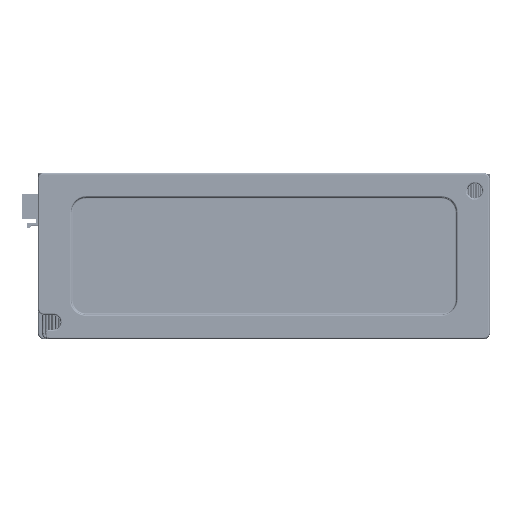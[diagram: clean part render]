
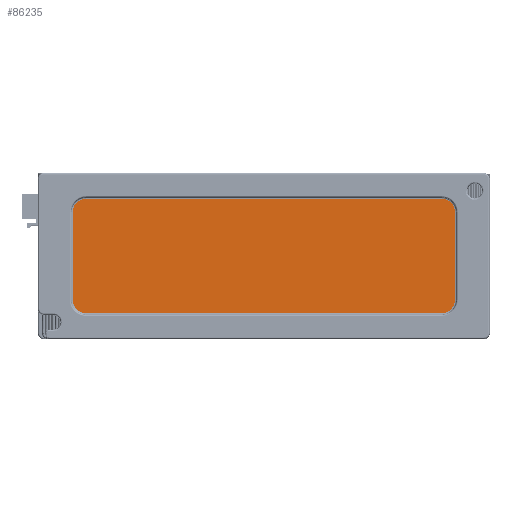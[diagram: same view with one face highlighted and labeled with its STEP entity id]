
A CAD part, top view. The second image highlights one B-rep face of the part: STEP entity #86235.
In plain terms, the highlighted planar face has unit normal (0, 0, 1).
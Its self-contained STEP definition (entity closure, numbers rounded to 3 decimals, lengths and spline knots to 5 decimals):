
#63518=DIRECTION('',(1.,0.,0.));
#63519=VECTOR('',#63518,0.118);
#63520=CARTESIAN_POINT('',(-0.07045,0.02282,
0.21924));
#63521=LINE('',#63520,#63519);
#63541=DIRECTION('',(0.,-1.,0.));
#63542=VECTOR('',#63541,0.029);
#63543=CARTESIAN_POINT('',(0.05205,0.01832,
0.21925));
#63544=LINE('',#63543,#63542);
#63564=DIRECTION('',(-1.,0.,0.));
#63565=VECTOR('',#63564,0.118);
#63566=CARTESIAN_POINT('',(0.04755,-0.01518,
0.21925));
#63567=LINE('',#63566,#63565);
#63587=DIRECTION('',(0.,1.,0.));
#63588=VECTOR('',#63587,0.029);
#63589=CARTESIAN_POINT('',(-0.07495,-0.01068,
0.21924));
#63590=LINE('',#63589,#63588);
#63610=CARTESIAN_POINT('',(0.04755,-0.01068,
0.21925));
#63611=DIRECTION('',(0.,0.,1.));
#63612=DIRECTION('',(0.,-1.,0.));
#63613=AXIS2_PLACEMENT_3D('',#63610,#63611,#63612);
#63615=CARTESIAN_POINT('',(-0.07045,-0.01068,
0.21924));
#63616=DIRECTION('',(0.,0.,1.));
#63617=DIRECTION('',(-1.,0.,0.));
#63618=AXIS2_PLACEMENT_3D('',#63615,#63616,#63617);
#63620=CARTESIAN_POINT('',(-0.07045,0.01832,
0.21924));
#63621=DIRECTION('',(0.,0.,1.));
#63622=DIRECTION('',(0.,1.,0.));
#63623=AXIS2_PLACEMENT_3D('',#63620,#63621,#63622);
#63625=CARTESIAN_POINT('',(0.04755,0.01832,
0.21925));
#63626=DIRECTION('',(0.,0.,1.));
#63627=DIRECTION('',(1.,0.,0.));
#63628=AXIS2_PLACEMENT_3D('',#63625,#63626,#63627);
#73911=CARTESIAN_POINT('',(0.04755,-0.01518,
0.21925));
#73912=CARTESIAN_POINT('',(0.05205,-0.01068,
0.21925));
#73913=VERTEX_POINT('',#73911);
#73914=VERTEX_POINT('',#73912);
#73915=CARTESIAN_POINT('',(-0.07045,-0.01518,
0.21924));
#73916=VERTEX_POINT('',#73915);
#73917=CARTESIAN_POINT('',(-0.07495,-0.01068,
0.21924));
#73918=VERTEX_POINT('',#73917);
#73919=CARTESIAN_POINT('',(-0.07495,0.01832,
0.21924));
#73920=VERTEX_POINT('',#73919);
#73921=CARTESIAN_POINT('',(-0.07045,0.02282,
0.21924));
#73922=VERTEX_POINT('',#73921);
#73923=CARTESIAN_POINT('',(0.04755,0.02282,
0.21925));
#73924=VERTEX_POINT('',#73923);
#73925=CARTESIAN_POINT('',(0.05205,0.01832,
0.21925));
#73926=VERTEX_POINT('',#73925);
#86220=CARTESIAN_POINT('',(-0.01145,-0.02368,
0.21925));
#86221=DIRECTION('',(0.,0.,1.));
#86222=DIRECTION('',(1.,0.,0.));
#86223=AXIS2_PLACEMENT_3D('',#86220,#86221,#86222);
#86224=PLANE('',#86223);
#86225=ORIENTED_EDGE('',*,*,#86158,.F.);
#86226=ORIENTED_EDGE('',*,*,#86172,.T.);
#86227=ORIENTED_EDGE('',*,*,#86186,.F.);
#86228=ORIENTED_EDGE('',*,*,#86200,.T.);
#86229=ORIENTED_EDGE('',*,*,#86213,.F.);
#86230=ORIENTED_EDGE('',*,*,#86115,.T.);
#86231=ORIENTED_EDGE('',*,*,#86130,.F.);
#86232=ORIENTED_EDGE('',*,*,#86144,.T.);
#86233=EDGE_LOOP('',(#86225,#86226,#86227,#86228,#86229,#86230,#86231,#86232));
#86234=FACE_OUTER_BOUND('',#86233,.F.);
#86235=ADVANCED_FACE('',(#86234),#86224,.T.);
#63614=CIRCLE('',#63613,0.0045);
#63619=CIRCLE('',#63618,0.0045);
#63624=CIRCLE('',#63623,0.0045);
#63629=CIRCLE('',#63628,0.0045);
#86115=EDGE_CURVE('',#73922,#73924,#63521,.T.);
#86130=EDGE_CURVE('',#73926,#73924,#63629,.T.);
#86144=EDGE_CURVE('',#73926,#73914,#63544,.T.);
#86158=EDGE_CURVE('',#73913,#73914,#63614,.T.);
#86172=EDGE_CURVE('',#73913,#73916,#63567,.T.);
#86186=EDGE_CURVE('',#73918,#73916,#63619,.T.);
#86200=EDGE_CURVE('',#73918,#73920,#63590,.T.);
#86213=EDGE_CURVE('',#73922,#73920,#63624,.T.);
